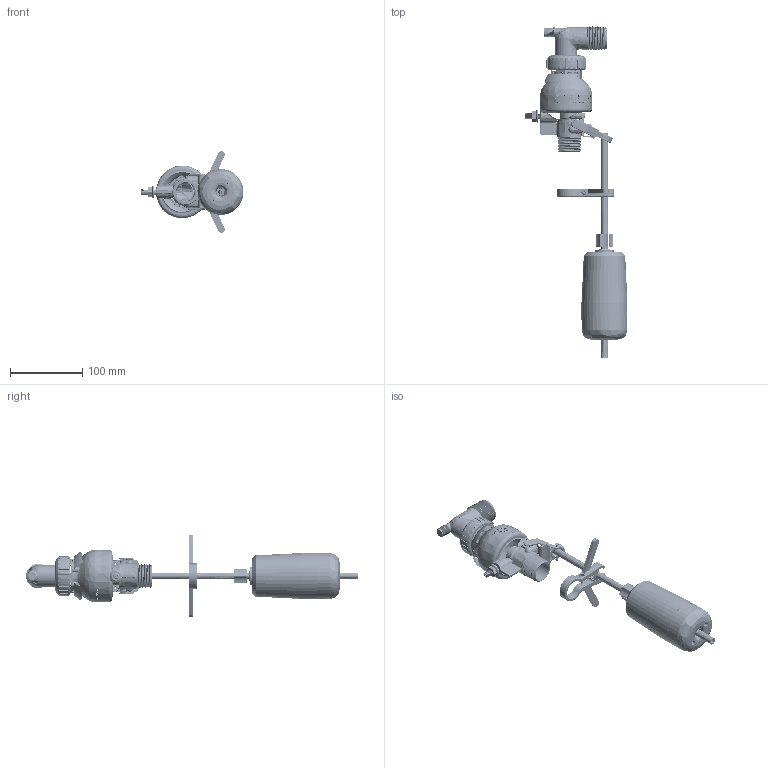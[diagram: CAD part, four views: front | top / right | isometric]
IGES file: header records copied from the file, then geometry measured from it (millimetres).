
Start section: SolidWorks IGES file using analytic representation for surfaces
Global section: file name: P:\Drawings CAD & PDF's for Customers\Brine Tanks  distributor misc\494 brine body and air check\494 Safety Float.IGS; native system: SolidWorks 2009; preprocessor: SolidWorks 2009; author: heidenre; date: 090501.114911; units: inch
Bounding box: 142.1 x 458.22 x 113.13 mm (x, y, z)
Surface area: 124227 mm2 (no closed solid volume)
Topology: 0 solids, 0 shells, 1610 faces, 30984 edges, 30930 vertices
Faces by surface type: bspline 898, revolution 712
